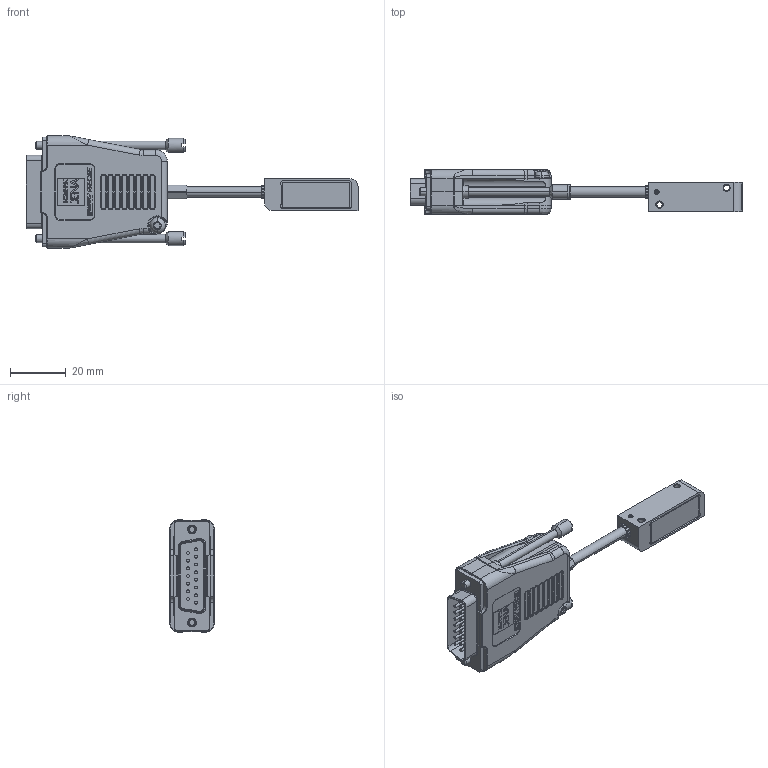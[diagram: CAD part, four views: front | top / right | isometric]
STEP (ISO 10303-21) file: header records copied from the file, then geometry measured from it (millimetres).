
FILE_DESCRIPTION((''),'2;1');
FILE_NAME('1212461-02-D01_ASM','2017-12-05T',('de8356'),(''),'PRO/ENGINEER BY PARAMETRIC TECHNOLOGY CORPORATION, 2014000','PRO/ENGINEER BY PARAMETRIC TECHNOLOGY CORPORATION, 2014000','');
FILE_SCHEMA(('CONFIG_CONTROL_DESIGN'));
Products named in the file (20): 1080516-10-D01; 754073-04-K01; 1109906-01-K01; 369728-77-A01; 203978-33-B01; 203978-25-B01; 369728-77-A01_ASM; 200540-2B-K01; 1095874-10-D01_ASM; 1115911-02-K01; 1115911-01-K01; 1115912-01-K01; 239829-02; 355940-11-K01; 1153247-01-K01_ASM; 227609-08; 1170996-01-K01; 249442-F6-B01_ASM; 223790-02; 1212461-02-D01_ASM
Assembly tree (23 placements, depth 4):
  1212461-02-D01_ASM
    1095874-10-D01_ASM
      1080516-10-D01
      754073-04-K01
      1109906-01-K01
      369728-77-A01_ASM
        369728-77-A01
        203978-33-B01
        203978-25-B01
      200540-2B-K01
    200540-2B-K01
    1153247-01-K01_ASM
      1115911-02-K01
      1115911-01-K01
      1115912-01-K01  x2
      239829-02  x2
      355940-11-K01  x2
    249442-F6-B01_ASM
      227609-08
      1170996-01-K01
    223790-02
Bounding box: 118.72 x 16 x 40.11 mm (x, y, z)
Volume: 17359.7 mm3; surface area: 19270.6 mm2
Topology: 27 solids, 27 shells, 4102 faces, 10489 edges, 6639 vertices
Faces by surface type: plane 2636, cylinder 854, bspline 324, sphere 136, cone 77, torus 46, extrusion 29
Entity records: 168945 total; most frequent: CARTESIAN_POINT 46555, ORIENTED_EDGE 20386, DIRECTION 17975, EDGE_CURVE 10193, PRESENTATION_STYLE_ASSIGNMENT 9138, STYLED_ITEM 9138, CURVE_STYLE 9052, VECTOR 7803
